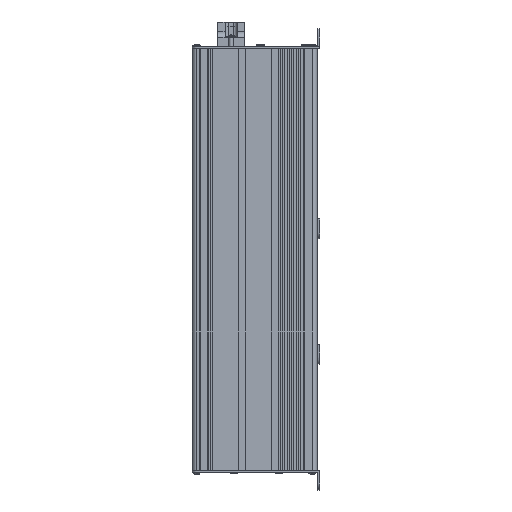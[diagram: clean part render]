
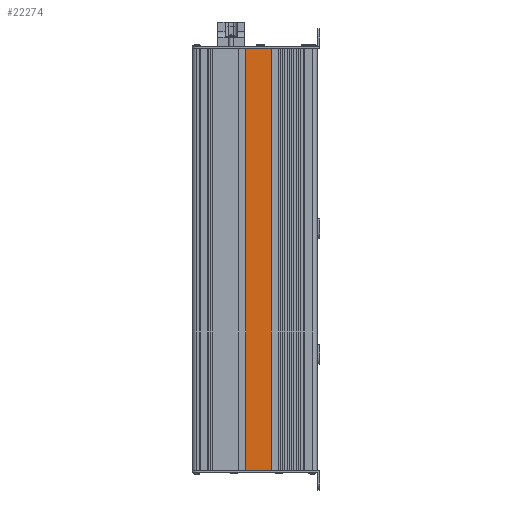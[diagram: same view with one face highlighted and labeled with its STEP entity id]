
A CAD part, left-side view. The second image highlights one B-rep face of the part: STEP entity #22274.
In plain terms, the highlighted planar face has unit normal (-1, 0, 0).
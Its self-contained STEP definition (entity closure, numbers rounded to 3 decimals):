
#2628=FACE_OUTER_BOUND('',#3754,.T.);
#3754=EDGE_LOOP('',(#18175,#18176,#18177,#18178));
#5768=LINE('',#35648,#8070);
#5769=LINE('',#35651,#8071);
#5770=LINE('',#35653,#8072);
#5771=LINE('',#35654,#8073);
#8070=VECTOR('',#28892,10.);
#8071=VECTOR('',#28895,10.);
#8072=VECTOR('',#28896,10.);
#8073=VECTOR('',#28897,10.);
#10219=VERTEX_POINT('',#35644);
#10220=VERTEX_POINT('',#35646);
#10221=VERTEX_POINT('',#35650);
#10222=VERTEX_POINT('',#35652);
#13061=EDGE_CURVE('',#10219,#10220,#5768,.T.);
#13062=EDGE_CURVE('',#10219,#10221,#5769,.T.);
#13063=EDGE_CURVE('',#10222,#10220,#5770,.T.);
#13064=EDGE_CURVE('',#10221,#10222,#5771,.T.);
#18175=ORIENTED_EDGE('',*,*,#13062,.F.);
#18176=ORIENTED_EDGE('',*,*,#13061,.T.);
#18177=ORIENTED_EDGE('',*,*,#13063,.F.);
#18178=ORIENTED_EDGE('',*,*,#13064,.F.);
#21357=PLANE('',#24113);
#22274=ADVANCED_FACE('',(#2628),#21357,.T.);
#24113=AXIS2_PLACEMENT_3D('',#35649,#28893,#28894);
#28892=DIRECTION('',(0.,0.,1.));
#28893=DIRECTION('center_axis',(-1.,0.,0.));
#28894=DIRECTION('ref_axis',(0.,-1.,0.));
#28895=DIRECTION('',(0.,1.,0.));
#28896=DIRECTION('',(0.,-1.,0.));
#28897=DIRECTION('',(0.,0.,1.));
#35644=CARTESIAN_POINT('',(1.214,51.487,0.));
#35646=CARTESIAN_POINT('',(1.214,51.487,470.));
#35648=CARTESIAN_POINT('',(1.214,51.487,0.));
#35649=CARTESIAN_POINT('Origin',(1.214,79.987,0.));
#35650=CARTESIAN_POINT('',(1.214,79.987,0.));
#35651=CARTESIAN_POINT('',(1.214,51.487,0.));
#35652=CARTESIAN_POINT('',(1.214,79.987,470.));
#35653=CARTESIAN_POINT('',(1.214,51.487,470.));
#35654=CARTESIAN_POINT('',(1.214,79.987,0.));
